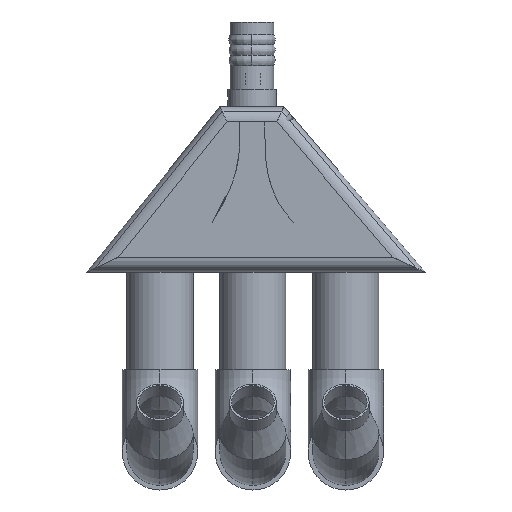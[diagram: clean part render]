
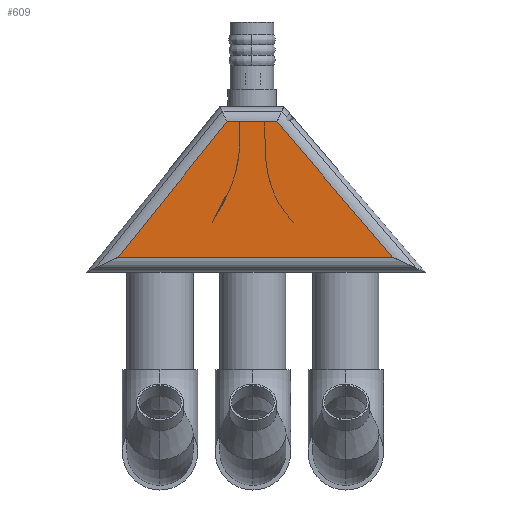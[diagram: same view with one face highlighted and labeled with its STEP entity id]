
A CAD part, front view. The second image highlights one B-rep face of the part: STEP entity #609.
In plain terms, the highlighted planar face has unit normal (0, -1, 0).
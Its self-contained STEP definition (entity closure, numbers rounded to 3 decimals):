
#609=ADVANCED_FACE('0:164',(#1190),#1191,.T.);
#1190=FACE_OUTER_BOUND('',#1814,.T.);
#1191=PLANE('',#1815);
#1814=EDGE_LOOP('',(#2924,#2925,#2926,#2927));
#1815=AXIS2_PLACEMENT_3D('',#2928,#2929,#2930);
#2924=ORIENTED_EDGE('',*,*,#3852,.F.);
#2925=ORIENTED_EDGE('',*,*,#3812,.F.);
#2926=ORIENTED_EDGE('',*,*,#3821,.F.);
#2927=ORIENTED_EDGE('',*,*,#3817,.F.);
#2928=CARTESIAN_POINT('',(406.322,-225.281,-244.118));
#2929=DIRECTION('',(0.0,-1.0,0.0));
#2930=DIRECTION('',(0.0,0.0,-1.0));
#3812=EDGE_CURVE('0:425',#4521,#4523,#4524,.T.);
#3817=EDGE_CURVE('0:419',#4530,#4532,#4533,.T.);
#3821=EDGE_CURVE('0:410',#4532,#4521,#4537,.T.);
#3852=EDGE_CURVE('0:314',#4523,#4530,#4584,.T.);
#4521=VERTEX_POINT('',#5577);
#4523=VERTEX_POINT('',#5579);
#4524=LINE('',#5580,#5581);
#4530=VERTEX_POINT('',#5588);
#4532=VERTEX_POINT('',#5590);
#4533=LINE('',#5591,#5592);
#4537=LINE('',#5597,#5598);
#4584=LINE('',#5668,#5669);
#5577=CARTESIAN_POINT('',(397.631,-225.281,-12.648));
#5579=CARTESIAN_POINT('',(509.77,-225.281,-143.725));
#5580=CARTESIAN_POINT('',(488.712,-225.281,-119.112));
#5581=VECTOR('',#6939,0.001);
#5588=CARTESIAN_POINT('',(243.685,-225.281,-143.725));
#5590=CARTESIAN_POINT('',(349.275,-225.281,-12.648));
#5591=CARTESIAN_POINT('',(273.891,-225.281,-106.228));
#5592=VECTOR('',#6947,0.001);
#5597=CARTESIAN_POINT('',(389.822,-225.281,-12.648));
#5598=VECTOR('',#6952,0.001);
#5668=CARTESIAN_POINT('',(391.822,-225.281,-143.725));
#5669=VECTOR('',#6990,0.001);
#6939=DIRECTION('',(0.65,-0.0,-0.76));
#6947=DIRECTION('',(0.627,-0.0,0.779));
#6952=DIRECTION('',(1.0,-0.0,-0.0));
#6990=DIRECTION('',(-1.0,-0.0,-0.0));
